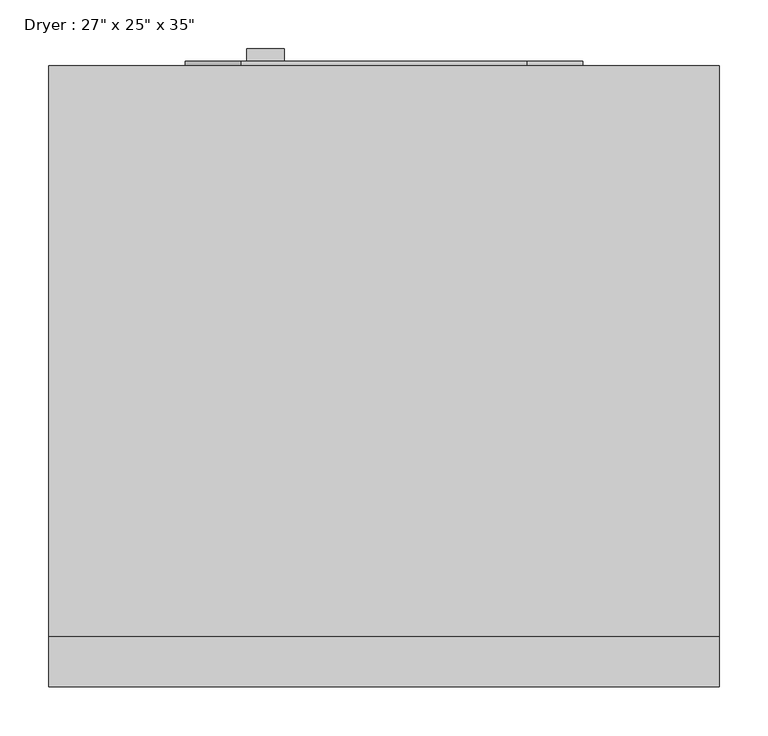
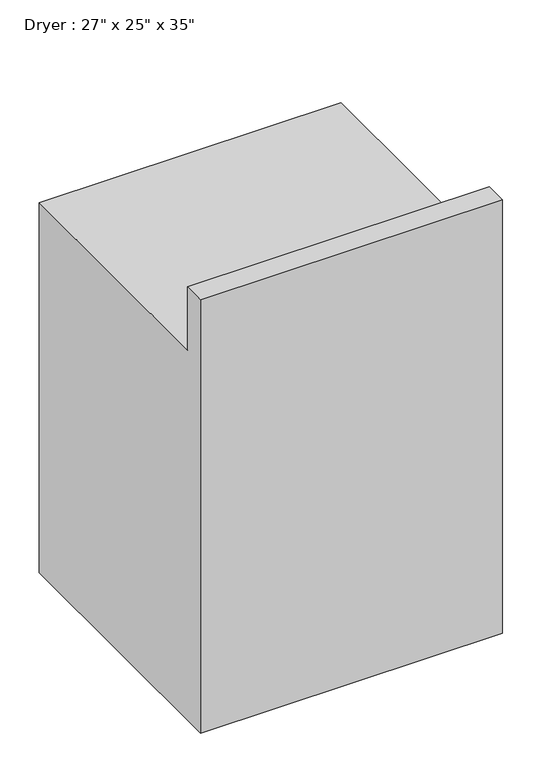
"""IFC4 building model written with IfcOpenShell, lengths in millimetres: proxy geometry."""

from ifc_helpers import new_model, si_unit, point, frame, frame_2d, origin, place, context, project, spatial, polyline, circle_curve, trimmed, segment, composite_curve, outline, extrude, source, transform, mapped, element, save


def proxy_547a9969(model_context):
    return source(origin(), model_context, "Body", "SweptSolid", [
        extrude(outline(polyline([(276.7635206, 20.3014962), (276.7635206, 7.6014962), (238.6635206, 7.6014962), (238.6635206, 20.3014962), (276.7635206, 20.3014962)])), frame((0.0, 0.0, 438.7649313), z_axis=(0.0, 0.0, 1.0), x_axis=(1.0, 0.0, 0.0)), (0.0, 0.0, 1.0), 177.8),
        extrude(outline(composite_curve([segment(polyline([(737.623844, 525.0374563), (737.623844, 232.9374563)]), True, "CONTINUOUS"), segment(trimmed(circle_curve(frame_2d((680.473844, 232.9374563)), 57.15), [point((737.623844, 232.9374563))], [point((680.473844, 175.7874563))], False, "CARTESIAN"), True, "CONTINUOUS"), segment(polyline([(680.473844, 175.7874563), (337.573844, 175.7874563)]), True, "CONTINUOUS"), segment(trimmed(circle_curve(frame_2d((337.573844, 232.9374563)), 57.15), [point((337.573844, 175.7874563))], [point((280.423844, 232.9374563))], False, "CARTESIAN"), True, "CONTINUOUS"), segment(polyline([(280.423844, 232.9374563), (280.423844, 525.0374563)]), True, "CONTINUOUS"), segment(trimmed(circle_curve(frame_2d((337.573844, 525.0374563)), 57.15), [point((280.423844, 525.0374563))], [point((337.573844, 582.1874563))], False, "CARTESIAN"), True, "CONTINUOUS"), segment(polyline([(337.573844, 582.1874563), (680.473844, 582.1874563)]), True, "CONTINUOUS"), segment(trimmed(circle_curve(frame_2d((680.473844, 525.0374563)), 57.15), [point((680.473844, 582.1874563))], [point((737.623844, 525.0374563))], False, "CARTESIAN"), True, "CONTINUOUS")], self_intersect=False)), frame((0.0, 2.8389962, 0.0), z_axis=(0.0, 1.0, 0.0), x_axis=(0.0, 0.0, 1.0)), (0.0, 0.0, 1.0), 4.7625),
        extrude(outline(polyline([(-632.1610038, 0.0), (-632.1610038, 1041.4), (-581.3610038, 1041.4), (-581.3610038, 889.0), (2.8389962, 889.0), (2.8389962, 0.0), (-632.1610038, 0.0)])), frame((36.0874563, 0.0, 0.0), z_axis=(1.0, 0.0, 0.0), x_axis=(0.0, 1.0, 0.0)), (0.0, 0.0, 1.0), 685.8),
    ])


if __name__ == "__main__":
    model = new_model("IFC4")
    model_context = context("Model", 3, world=origin())
    ifc_project = project(units=[si_unit("LENGTHUNIT", "METRE", prefix="MILLI")], contexts=[model_context])
    site = spatial("IfcSite", under=ifc_project)
    building = spatial("IfcBuilding", under=site)
    placement = place(None, origin())
    proxy_shape = proxy_547a9969(model_context)
    element("IfcBuildingElementProxy", 1, Name="Dryer : 27\" x 25\" x 35\"", ObjectType="Dryer : 27\" x 25\" x 35\"", at=placement, inside=building, context=model_context, shape_type="MappedRepresentation", body=[
        mapped(proxy_shape, transform((0.0, 0.0, 0.0), x_axis=(1.0, 0.0, 0.0), y_axis=(0.0, 1.0, 0.0), z_axis=(0.0, 0.0, 1.0))),
    ])
    save(model, "model.ifc")
